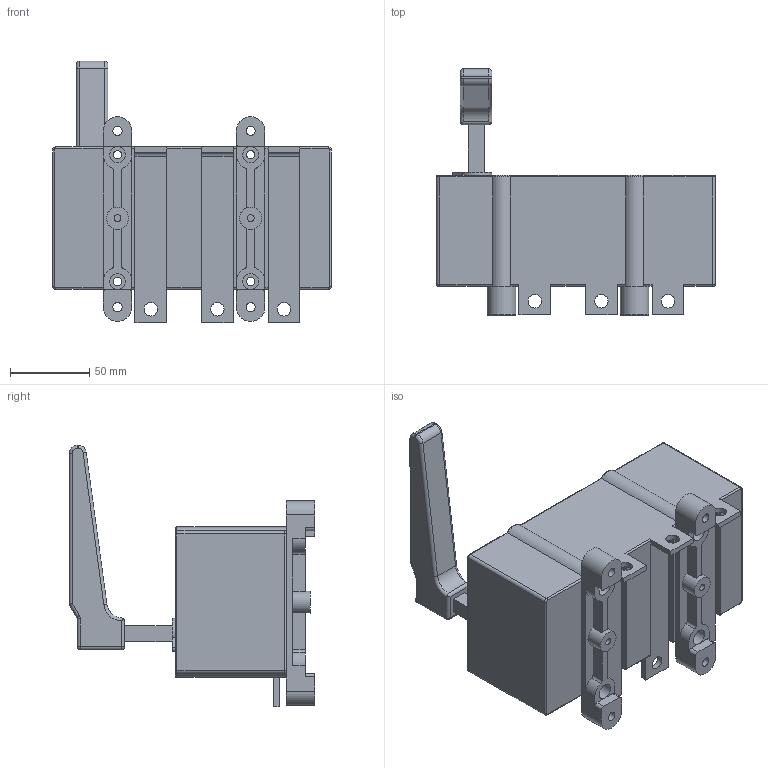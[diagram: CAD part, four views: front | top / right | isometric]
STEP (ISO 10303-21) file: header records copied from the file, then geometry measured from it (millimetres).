
FILE_DESCRIPTION(/* description */ (''),/* implementation_level */ '2;1');
FILE_NAME(/* name */ 'RA250 P3 A-R.stp',/* time_stamp */ '2021-08-18T08:00:31+02:00',/* author */ (''),/* organization */ (''),/* preprocessor_version */ 'ST-DEVELOPER v18.1',/* originating_system */ 'SIEMENS PLM Software NX 1965',/* authorisation */ '');
FILE_SCHEMA (('AUTOMOTIVE_DESIGN { 1 0 10303 214 3 1 1 1 }'));
Length unit declared in the file: millimetre
Products named in the file (1): RA250 P3 A-R_stp
Bounding box: 176 x 155 x 165 mm (x, y, z)
Volume: 1186632.1 mm3; surface area: 107346.8 mm2
Topology: 1 solids, 1 shells, 247 faces, 642 edges, 400 vertices
Faces by surface type: cylinder 113, plane 108, torus 15, sphere 6, bspline 5
Full cylindrical faces by diameter (mm): 4.3 x2, 5.3 x4, 5.8 x4, 8.5 x6, 10 x8, 14 x2
Entity records: 7445 total; most frequent: CARTESIAN_POINT 1427, DIRECTION 1294, ORIENTED_EDGE 1192, EDGE_CURVE 596, AXIS2_PLACEMENT_3D 477, VERTEX_POINT 386, LINE 340, VECTOR 340
